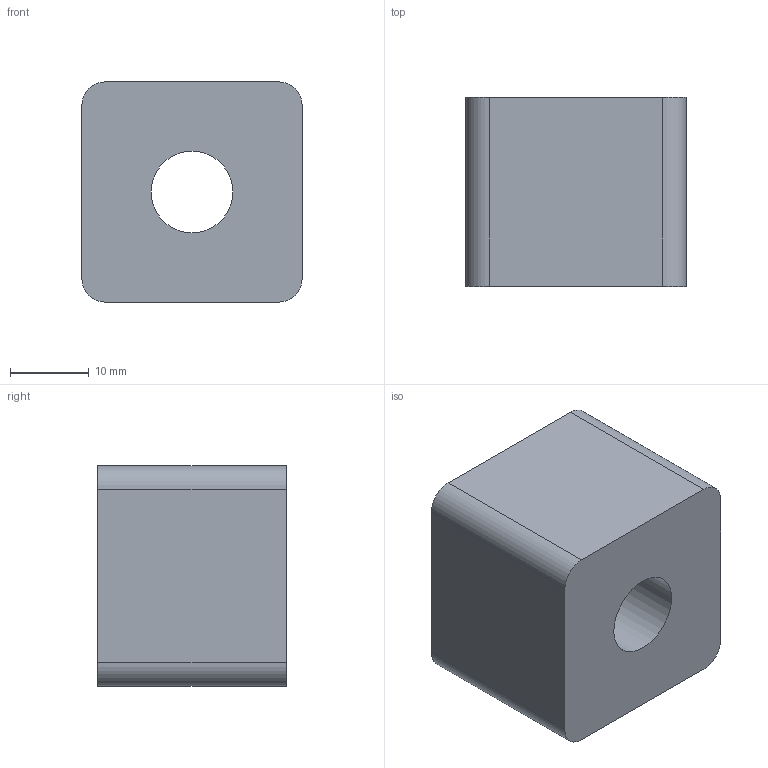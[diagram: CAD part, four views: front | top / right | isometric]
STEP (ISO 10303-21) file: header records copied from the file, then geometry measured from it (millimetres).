
FILE_DESCRIPTION(('Open CASCADE Model'),'2;1');
FILE_NAME('Open CASCADE Shape Model','2026-10-06T19:56:09',('Author'),( 'Open CASCADE'),'Open CASCADE STEP processor 7.9','Open CASCADE 7.9' ,'Unknown');
FILE_SCHEMA(('AUTOMOTIVE_DESIGN { 1 0 10303 214 1 1 1 1 }'));
Length unit declared in the file: millimetre
Products named in the file (1): Open CASCADE STEP translator 7.9 14
Bounding box: 28 x 24 x 28 mm (x, y, z)
Volume: 16054.2 mm3; surface area: 4976 mm2
Topology: 1 solids, 1 shells, 16 faces, 39 edges, 26 vertices
Faces by surface type: plane 11, cylinder 5
Full cylindrical faces by diameter (mm): 10.4 x1
Entity records: 998 total; most frequent: CARTESIAN_POINT 192, DIRECTION 149, LINE 89, VECTOR 89, ORIENTED_EDGE 78, PCURVE 78, DEFINITIONAL_REPRESENTATION 78, EDGE_CURVE 39
